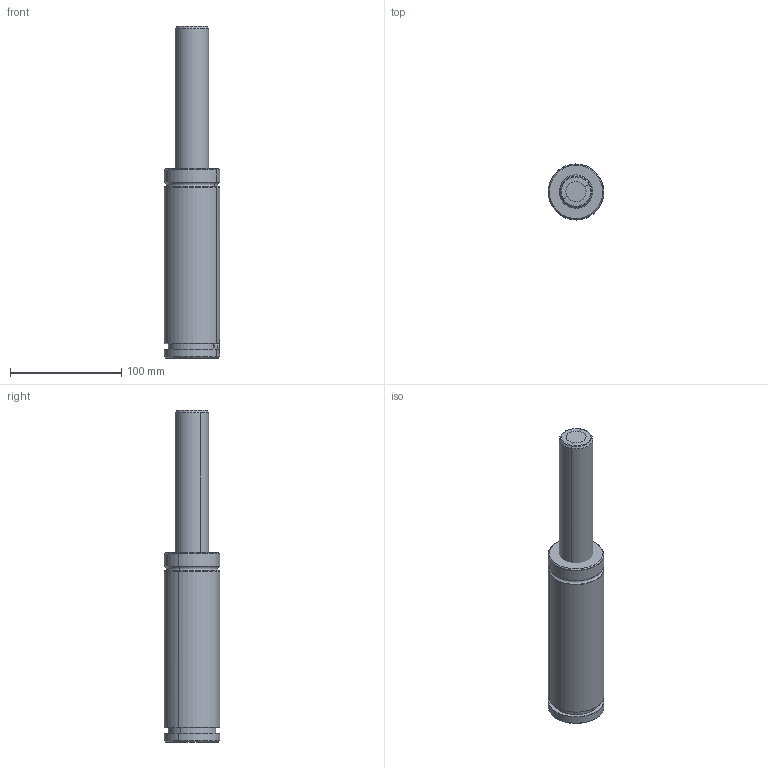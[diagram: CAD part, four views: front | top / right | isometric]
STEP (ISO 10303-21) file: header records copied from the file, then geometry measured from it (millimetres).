
FILE_DESCRIPTION(('CATIA V5 STEP Exchange'),'2;1');
FILE_NAME('W:\CATALOGO GENERAL 2018\FICHEROS CAD\001-MICRO\MICRO 50C.1\MICRO 50C.1x125.stp','2017-10-26T07:27:51+00:00',('none'),('none'),'CATIA Version 5 Release 17 (IN-10)','CATIA V5 STEP AP203','none');
FILE_SCHEMA(('CONFIG_CONTROL_DESIGN'));
Length unit declared in the file: millimetre
Products named in the file (1): MICRO 50C.1x125
Assembly tree (3 placements, depth 2):
  MICRO 50C.1x125
    #56
    #1603
    #3359
Bounding box: 49.99 x 49.99 x 298 mm (x, y, z)
Volume: 437491.2 mm3; surface area: 50549.3 mm2
Topology: 3 solids, 3 shells, 166 faces, 354 edges, 198 vertices
Faces by surface type: cone 58, torus 50, cylinder 35, plane 23
Entity records: 4048 total; most frequent: CARTESIAN_POINT 744, ORIENTED_EDGE 692, DIRECTION 554, EDGE_CURVE 346, AXIS2_PLACEMENT_3D 332, CIRCLE 218, VERTEX_POINT 198, EDGE_LOOP 178
